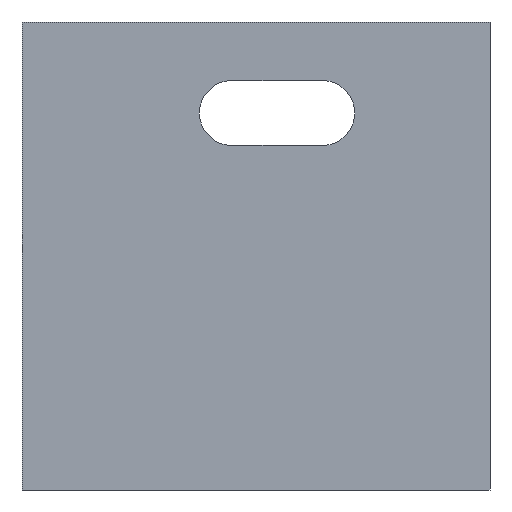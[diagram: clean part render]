
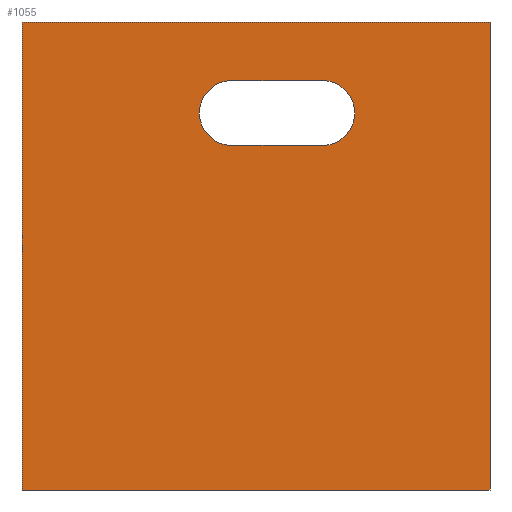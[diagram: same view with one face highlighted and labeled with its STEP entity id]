
A CAD part, front view. The second image highlights one B-rep face of the part: STEP entity #1055.
In plain terms, the highlighted planar face has unit normal (0, -1, 0).
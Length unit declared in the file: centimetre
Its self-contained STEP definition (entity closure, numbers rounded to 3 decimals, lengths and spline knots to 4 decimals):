
#6 = ORIENTED_EDGE ( 'NONE', *, *, #119, .T. ) ;
#10 = ORIENTED_EDGE ( 'NONE', *, *, #625, .T. ) ;
#16 = VECTOR ( 'NONE', #352, 100. ) ;
#19 = LINE ( 'NONE', #388, #609 ) ;
#110 = VERTEX_POINT ( 'NONE', #1179 ) ;
#116 = ORIENTED_EDGE ( 'NONE', *, *, #346, .T. ) ;
#119 = EDGE_CURVE ( 'NONE', #565, #509, #724, .T. ) ;
#169 = CARTESIAN_POINT ( 'NONE',  ( 641.5394, 0., 874.9462 ) ) ;
#172 = CARTESIAN_POINT ( 'NONE',  ( 1000., 0., 0. ) ) ;
#183 = LINE ( 'NONE', #1108, #16 ) ;
#268 = CARTESIAN_POINT ( 'NONE',  ( 0., 0., 0. ) ) ;
#270 = DIRECTION ( 'NONE',  ( 0., 0., -1. ) ) ;
#283 = FACE_OUTER_BOUND ( 'NONE', #315, .T. ) ;
#299 = EDGE_CURVE ( 'NONE', #464, #110, #1078, .T. ) ;
#303 = CARTESIAN_POINT ( 'NONE',  ( 0., 0., 0. ) ) ;
#308 = DIRECTION ( 'NONE',  ( -1., 0., 0. ) ) ;
#315 = EDGE_LOOP ( 'NONE', ( #10, #517, #830, #392 ) ) ;
#322 = VECTOR ( 'NONE', #1201, 100. ) ;
#346 = EDGE_CURVE ( 'NONE', #410, #565, #882, .T. ) ;
#350 = DIRECTION ( 'NONE',  ( 0., 0., -1. ) ) ;
#352 = DIRECTION ( 'NONE',  ( 0., 0., -1. ) ) ;
#357 = LINE ( 'NONE', #268, #322 ) ;
#367 = FACE_BOUND ( 'NONE', #604, .T. ) ;
#388 = CARTESIAN_POINT ( 'NONE',  ( 448.4565, 0., 736.248 ) ) ;
#392 = ORIENTED_EDGE ( 'NONE', *, *, #441, .T. ) ;
#404 = VERTEX_POINT ( 'NONE', #172 ) ;
#408 = EDGE_CURVE ( 'NONE', #509, #1160, #694, .T. ) ;
#410 = VERTEX_POINT ( 'NONE', #797 ) ;
#419 = CARTESIAN_POINT ( 'NONE',  ( 448.4565, 0., 805.5971 ) ) ;
#441 = EDGE_CURVE ( 'NONE', #464, #701, #975, .T. ) ;
#445 = CARTESIAN_POINT ( 'NONE',  ( 641.5394, 0., 874.9462 ) ) ;
#464 = VERTEX_POINT ( 'NONE', #1185 ) ;
#492 = DIRECTION ( 'NONE',  ( 0., 1., 0. ) ) ;
#509 = VERTEX_POINT ( 'NONE', #445 ) ;
#517 = ORIENTED_EDGE ( 'NONE', *, *, #898, .F. ) ;
#541 = DIRECTION ( 'NONE',  ( 0., 0., 1. ) ) ;
#545 = CARTESIAN_POINT ( 'NONE',  ( 0., 0., 1000. ) ) ;
#565 = VERTEX_POINT ( 'NONE', #584 ) ;
#584 = CARTESIAN_POINT ( 'NONE',  ( 448.4565, 0., 874.9462 ) ) ;
#604 = EDGE_LOOP ( 'NONE', ( #904, #116, #6, #858 ) ) ;
#609 = VECTOR ( 'NONE', #308, 100. ) ;
#623 = CARTESIAN_POINT ( 'NONE',  ( 0., 0., 1000. ) ) ;
#625 = EDGE_CURVE ( 'NONE', #701, #404, #357, .T. ) ;
#651 = PLANE ( 'NONE',  #1038 ) ;
#689 = EDGE_CURVE ( 'NONE', #1160, #410, #19, .T. ) ;
#693 = CARTESIAN_POINT ( 'NONE',  ( 641.5394, 0., 736.248 ) ) ;
#694 = CIRCLE ( 'NONE', #711, 69.3491 ) ;
#701 = VERTEX_POINT ( 'NONE', #303 ) ;
#711 = AXIS2_PLACEMENT_3D ( 'NONE', #983, #1204, #270 ) ;
#717 = VECTOR ( 'NONE', #897, 100. ) ;
#718 = CARTESIAN_POINT ( 'NONE',  ( 0., 0., 1000. ) ) ;
#724 = LINE ( 'NONE', #169, #717 ) ;
#797 = CARTESIAN_POINT ( 'NONE',  ( 448.4565, 0., 736.248 ) ) ;
#830 = ORIENTED_EDGE ( 'NONE', *, *, #299, .F. ) ;
#858 = ORIENTED_EDGE ( 'NONE', *, *, #408, .T. ) ;
#861 = DIRECTION ( 'NONE',  ( 0., 0., -1. ) ) ;
#882 = CIRCLE ( 'NONE', #1040, 69.3491 ) ;
#897 = DIRECTION ( 'NONE',  ( 1., 0., 0. ) ) ;
#898 = EDGE_CURVE ( 'NONE', #110, #404, #183, .T. ) ;
#900 = DIRECTION ( 'NONE',  ( 1., 0., 0. ) ) ;
#904 = ORIENTED_EDGE ( 'NONE', *, *, #689, .T. ) ;
#963 = VECTOR ( 'NONE', #350, 100. ) ;
#975 = LINE ( 'NONE', #545, #963 ) ;
#983 = CARTESIAN_POINT ( 'NONE',  ( 641.5394, 0., 805.5971 ) ) ;
#1017 = VECTOR ( 'NONE', #900, 100. ) ;
#1038 = AXIS2_PLACEMENT_3D ( 'NONE', #718, #1072, #541 ) ;
#1040 = AXIS2_PLACEMENT_3D ( 'NONE', #419, #492, #861 ) ;
#1055 = ADVANCED_FACE ( 'NONE', ( #367, #283 ), #651, .F. ) ;
#1072 = DIRECTION ( 'NONE',  ( 0., 1., 0. ) ) ;
#1078 = LINE ( 'NONE', #623, #1017 ) ;
#1108 = CARTESIAN_POINT ( 'NONE',  ( 1000., 0., 1000. ) ) ;
#1160 = VERTEX_POINT ( 'NONE', #693 ) ;
#1179 = CARTESIAN_POINT ( 'NONE',  ( 1000., 0., 1000. ) ) ;
#1185 = CARTESIAN_POINT ( 'NONE',  ( 0., 0., 1000. ) ) ;
#1201 = DIRECTION ( 'NONE',  ( 1., 0., 0. ) ) ;
#1204 = DIRECTION ( 'NONE',  ( 0., 1., 0. ) ) ;
